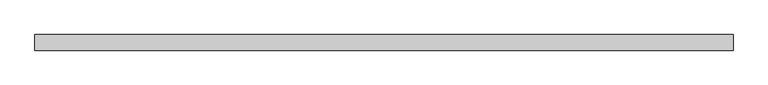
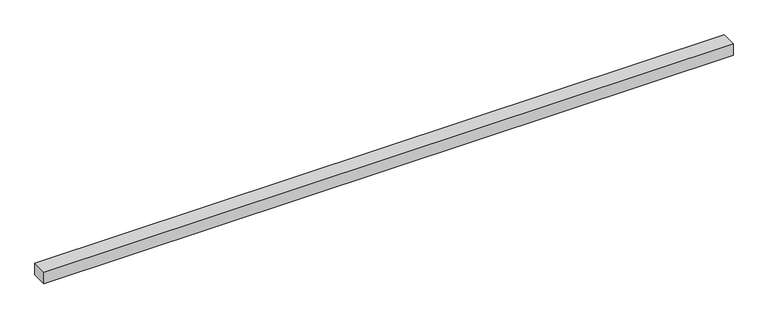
"""IFC4 building model written with IfcOpenShell, lengths in millimetres: geographic element geometry, r 低木密植 : 低木密植."""

from ifc_helpers import new_model, si_unit, origin, origin_with_axes, place, context, project, spatial, polyline, outline, extrude, source, transform, mapped, element, save


def geographic_element_3813c259(model_context):
    return source(origin(), model_context, "Body", "SweptSolid", [
        extrude(outline(polyline([(0.0, 0.0), (0.0, 500.0), (22371.1893093, 500.0), (22371.1893093, 0.0), (0.0, 0.0)])), origin_with_axes(), (0.0, 0.0, 1.0), 400.0),
    ])


if __name__ == "__main__":
    model = new_model("IFC4")
    model_context = context("Model", 3, world=origin())
    ifc_project = project(units=[si_unit("LENGTHUNIT", "METRE", prefix="MILLI")], contexts=[model_context])
    site = spatial("IfcSite", under=ifc_project)
    building = spatial("IfcBuilding", under=site)
    placement = place(None, origin())
    geographic_element_shape = geographic_element_3813c259(model_context)
    element("IfcGeographicElement", 1, ObjectType="r 低木密植 : 低木密植", at=placement, inside=building, context=model_context, shape_type="MappedRepresentation", body=[
        mapped(geographic_element_shape, transform((0.0, 0.0, 0.0), x_axis=(1.0, 0.0, 0.0), y_axis=(0.0, 1.0, 0.0), z_axis=(0.0, 0.0, 1.0))),
    ])
    save(model, "model.ifc")
